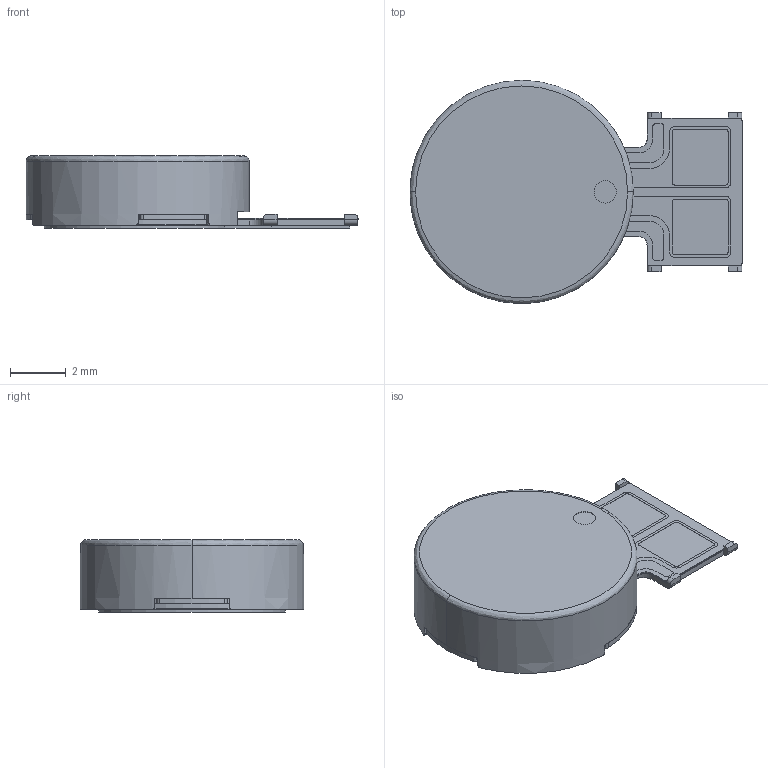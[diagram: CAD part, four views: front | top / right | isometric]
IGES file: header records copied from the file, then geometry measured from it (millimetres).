
Global section: file name: Filename.iges; native system: Open CASCADE 7.3; preprocessor: Open CASCADE IGES processor 7.3; date: 20220805.102526; units: millimetre
Bounding box: 11.9 x 8 x 2.6 mm (x, y, z)
Surface area: 751.2 mm2 (no closed solid volume)
Topology: 0 solids, 0 shells, 654 faces, 3704 edges, 3672 vertices
Faces by surface type: plane 330, revolution 324
